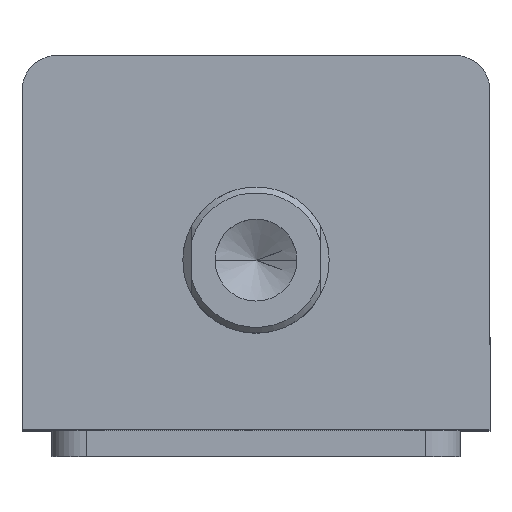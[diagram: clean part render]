
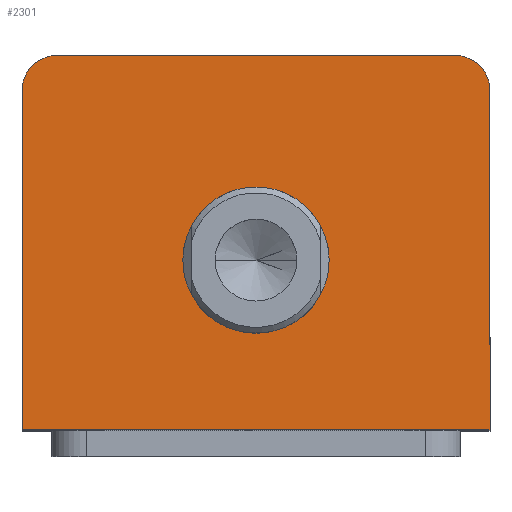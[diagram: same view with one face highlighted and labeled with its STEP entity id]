
A CAD part, top view. The second image highlights one B-rep face of the part: STEP entity #2301.
In plain terms, the highlighted planar face has unit normal (0, 0, 1).
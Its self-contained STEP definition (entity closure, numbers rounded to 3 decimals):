
#133 = CARTESIAN_POINT ( 'NONE',  ( 40., 26., 125. ) ) ;
#181 = VERTEX_POINT ( 'NONE', #2110 ) ;
#292 = AXIS2_PLACEMENT_3D ( 'NONE', #3097, #3092, #3091 ) ;
#302 = AXIS2_PLACEMENT_3D ( 'NONE', #3498, #3497, #3496 ) ;
#384 = DIRECTION ( 'NONE',  ( 1., 0., 0. ) ) ;
#386 = DIRECTION ( 'NONE',  ( 0., 0., 1. ) ) ;
#387 = CARTESIAN_POINT ( 'NONE',  ( 34., 26., 125. ) ) ;
#405 = DIRECTION ( 'NONE',  ( 0., 0., 1. ) ) ;
#408 = CARTESIAN_POINT ( 'NONE',  ( -34., 26., 125. ) ) ;
#497 = DIRECTION ( 'NONE',  ( 1., 0., 0. ) ) ;
#498 = DIRECTION ( 'NONE',  ( 0., 0., 1. ) ) ;
#499 = CARTESIAN_POINT ( 'NONE',  ( 0., -3., 125. ) ) ;
#500 = DIRECTION ( 'NONE',  ( -1., 0., 0. ) ) ;
#501 = CARTESIAN_POINT ( 'NONE',  ( -40., 32., 125. ) ) ;
#546 = DIRECTION ( 'NONE',  ( 0., -1., 0. ) ) ;
#547 = CARTESIAN_POINT ( 'NONE',  ( -40., 32., 125. ) ) ;
#556 = DIRECTION ( 'NONE',  ( 1., 0., 0. ) ) ;
#557 = VERTEX_POINT ( 'NONE', #1967 ) ;
#569 = VERTEX_POINT ( 'NONE', #1944 ) ;
#574 = VERTEX_POINT ( 'NONE', #1936 ) ;
#898 = CIRCLE ( 'NONE', #302, 12.5 ) ;
#936 = LINE ( 'NONE', #3408, #943 ) ;
#943 = VECTOR ( 'NONE', #3391, 1000. ) ;
#970 = LINE ( 'NONE', #3343, #973 ) ;
#973 = VECTOR ( 'NONE', #3342, 1000. ) ;
#999 = LINE ( 'NONE', #501, #1002 ) ;
#1002 = VECTOR ( 'NONE', #500, 1000. ) ;
#1015 = CIRCLE ( 'NONE', #2430, 6. ) ;
#1028 = CIRCLE ( 'NONE', #2413, 6. ) ;
#1034 = LINE ( 'NONE', #547, #1037 ) ;
#1037 = VECTOR ( 'NONE', #546, 1000. ) ;
#1060 = CIRCLE ( 'NONE', #2405, 12.5 ) ;
#1384 = ORIENTED_EDGE ( 'NONE', *, *, #1858, .F. ) ;
#1385 = ORIENTED_EDGE ( 'NONE', *, *, #1759, .F. ) ;
#1386 = ORIENTED_EDGE ( 'NONE', *, *, #1819, .T. ) ;
#1387 = ORIENTED_EDGE ( 'NONE', *, *, #1841, .T. ) ;
#1388 = ORIENTED_EDGE ( 'NONE', *, *, #1845, .T. ) ;
#1389 = ORIENTED_EDGE ( 'NONE', *, *, #1787, .T. ) ;
#1390 = ORIENTED_EDGE ( 'NONE', *, *, #1802, .T. ) ;
#1391 = ORIENTED_EDGE ( 'NONE', *, *, #1832, .T. ) ;
#1558 = EDGE_LOOP ( 'NONE', ( #1386, #1387, #1388, #1389, #1390, #1391 ) ) ;
#1600 = EDGE_LOOP ( 'NONE', ( #1384, #1385 ) ) ;
#1682 = VERTEX_POINT ( 'NONE', #2083 ) ;
#1759 = EDGE_CURVE ( 'NONE', #569, #574, #898, .T. ) ;
#1787 = EDGE_CURVE ( 'NONE', #2365, #2373, #936, .T. ) ;
#1802 = EDGE_CURVE ( 'NONE', #2373, #3587, #970, .T. ) ;
#1819 = EDGE_CURVE ( 'NONE', #557, #181, #999, .T. ) ;
#1832 = EDGE_CURVE ( 'NONE', #3587, #557, #1015, .T. ) ;
#1841 = EDGE_CURVE ( 'NONE', #181, #1682, #1028, .T. ) ;
#1845 = EDGE_CURVE ( 'NONE', #1682, #2365, #1034, .T. ) ;
#1858 = EDGE_CURVE ( 'NONE', #574, #569, #1060, .T. ) ;
#1936 = CARTESIAN_POINT ( 'NONE',  ( 12.5, -3., 125. ) ) ;
#1944 = CARTESIAN_POINT ( 'NONE',  ( -12.5, -3., 125. ) ) ;
#1967 = CARTESIAN_POINT ( 'NONE',  ( 34., 32., 125. ) ) ;
#2083 = CARTESIAN_POINT ( 'NONE',  ( -40., 26., 125. ) ) ;
#2110 = CARTESIAN_POINT ( 'NONE',  ( -34., 32., 125. ) ) ;
#2301 = ADVANCED_FACE ( 'NONE', ( #2549, #2555 ), #3094, .T. ) ;
#2365 = VERTEX_POINT ( 'NONE', #2960 ) ;
#2373 = VERTEX_POINT ( 'NONE', #2958 ) ;
#2405 = AXIS2_PLACEMENT_3D ( 'NONE', #499, #498, #497 ) ;
#2413 = AXIS2_PLACEMENT_3D ( 'NONE', #408, #405, #556 ) ;
#2430 = AXIS2_PLACEMENT_3D ( 'NONE', #387, #386, #384 ) ;
#2549 = FACE_BOUND ( 'NONE', #1600, .T. ) ;
#2555 = FACE_OUTER_BOUND ( 'NONE', #1558, .T. ) ;
#2958 = CARTESIAN_POINT ( 'NONE',  ( 40., -32., 125. ) ) ;
#2960 = CARTESIAN_POINT ( 'NONE',  ( -40., -32., 125. ) ) ;
#3091 = DIRECTION ( 'NONE',  ( 1., 0., 0. ) ) ;
#3092 = DIRECTION ( 'NONE',  ( 0., 0., 1. ) ) ;
#3094 = PLANE ( 'NONE',  #292 ) ;
#3097 = CARTESIAN_POINT ( 'NONE',  ( 0., 0., 125. ) ) ;
#3342 = DIRECTION ( 'NONE',  ( 0., 1., 0. ) ) ;
#3343 = CARTESIAN_POINT ( 'NONE',  ( 40., 32., 125. ) ) ;
#3391 = DIRECTION ( 'NONE',  ( 1., 0., 0. ) ) ;
#3408 = CARTESIAN_POINT ( 'NONE',  ( -40., -32., 125. ) ) ;
#3496 = DIRECTION ( 'NONE',  ( 1., 0., 0. ) ) ;
#3497 = DIRECTION ( 'NONE',  ( 0., 0., 1. ) ) ;
#3498 = CARTESIAN_POINT ( 'NONE',  ( 0., -3., 125. ) ) ;
#3587 = VERTEX_POINT ( 'NONE', #133 ) ;
